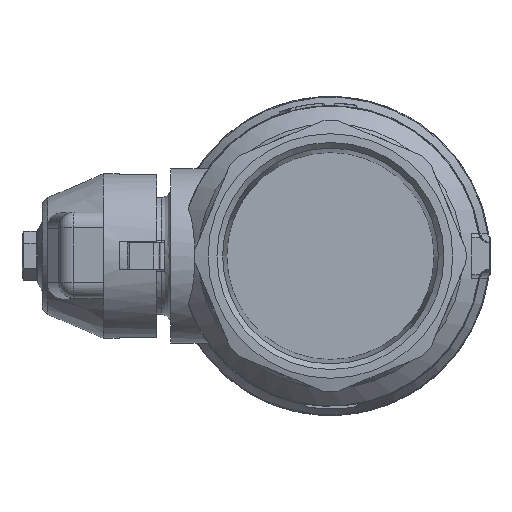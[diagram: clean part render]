
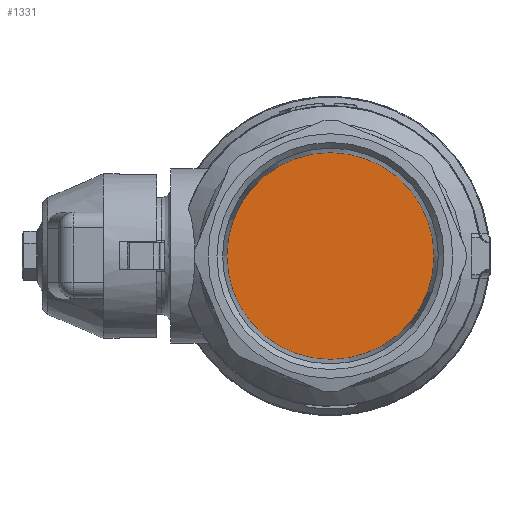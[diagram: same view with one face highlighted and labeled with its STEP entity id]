
A CAD part, left-side view. The second image highlights one B-rep face of the part: STEP entity #1331.
In plain terms, the highlighted planar face has unit normal (-1, 0, 0).
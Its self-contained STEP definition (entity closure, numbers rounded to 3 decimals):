
#1315=CARTESIAN_POINT('',(-54.85,-9.737,0.0));
#1316=DIRECTION('',(-1.0,0.0,0.0));
#1317=DIRECTION('',(0.0,0.0,1.0));
#1318=AXIS2_PLACEMENT_3D('',#1315,#1316,#1317);
#1319=PLANE('',#1318);
#1320=CARTESIAN_POINT('',(-54.85,-19.475,0.0));
#1321=VERTEX_POINT('',#1320);
#1322=CARTESIAN_POINT('',(-54.85,0.0,0.0));
#1323=DIRECTION('',(-1.0,0.0,0.0));
#1324=DIRECTION('',(0.0,-1.0,0.0));
#1325=AXIS2_PLACEMENT_3D('',#1322,#1323,#1324);
#1326=CIRCLE('',#1325,19.475);
#1327=EDGE_CURVE('',#1321,#1321,#1326,.T.);
#1328=ORIENTED_EDGE('',*,*,#1327,.T.);
#1329=EDGE_LOOP('',(#1328));
#1330=FACE_OUTER_BOUND('',#1329,.T.);
#1331=ADVANCED_FACE('',(#1330),#1319,.T.);
